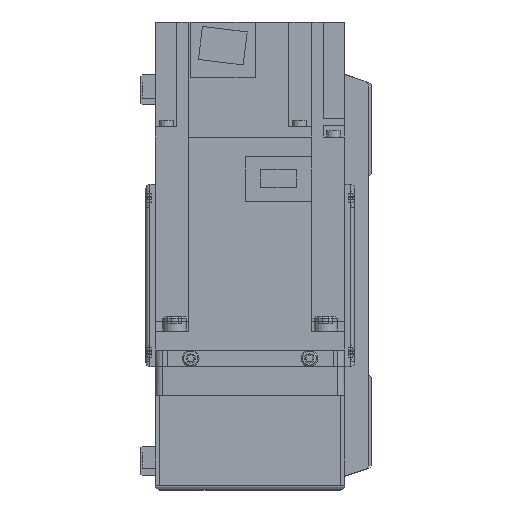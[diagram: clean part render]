
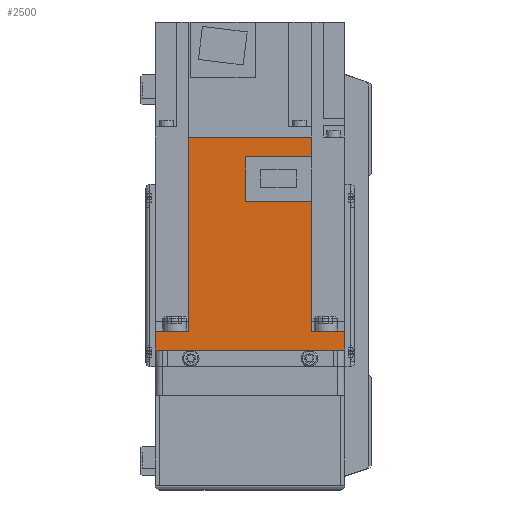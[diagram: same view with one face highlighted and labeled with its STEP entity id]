
A CAD part, left-side view. The second image highlights one B-rep face of the part: STEP entity #2500.
In plain terms, the highlighted planar face has unit normal (-1, 0, 0) as drawn and (1, 0, 0) by its records, which use the part's own axes.
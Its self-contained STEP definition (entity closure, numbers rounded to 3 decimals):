
#2500 = ADVANCED_FACE( '', ( #5680 ), #5681, .F. );
#5680 = FACE_OUTER_BOUND( '', #9608, .T. );
#5681 = PLANE( '', #9609 );
#9608 = EDGE_LOOP( '', ( #16790, #16791, #16792, #16793, #16794, #16795, #16796, #16797, #16798, #16799, #16800, #16801 ) );
#9609 = AXIS2_PLACEMENT_3D( '', #16802, #16803, #16804 );
#16790 = ORIENTED_EDGE( '', *, *, #24514, .F. );
#16791 = ORIENTED_EDGE( '', *, *, #23601, .F. );
#16792 = ORIENTED_EDGE( '', *, *, #24515, .F. );
#16793 = ORIENTED_EDGE( '', *, *, #24516, .T. );
#16794 = ORIENTED_EDGE( '', *, *, #24517, .F. );
#16795 = ORIENTED_EDGE( '', *, *, #24518, .T. );
#16796 = ORIENTED_EDGE( '', *, *, #24519, .T. );
#16797 = ORIENTED_EDGE( '', *, *, #23217, .F. );
#16798 = ORIENTED_EDGE( '', *, *, #22138, .F. );
#16799 = ORIENTED_EDGE( '', *, *, #23602, .F. );
#16800 = ORIENTED_EDGE( '', *, *, #24520, .F. );
#16801 = ORIENTED_EDGE( '', *, *, #24234, .F. );
#16802 = CARTESIAN_POINT( '', ( 40., 89.8, 40. ) );
#16803 = DIRECTION( '', ( -1., 0., 0. ) );
#16804 = DIRECTION( '', ( 0., 0., 1. ) );
#22138 = EDGE_CURVE( '', #26360, #26361, #26362, .T. );
#23217 = EDGE_CURVE( '', #26361, #28199, #28200, .T. );
#23601 = EDGE_CURVE( '', #28802, #26745, #28804, .T. );
#23602 = EDGE_CURVE( '', #26746, #26360, #28805, .T. );
#24234 = EDGE_CURVE( '', #29746, #29747, #29748, .T. );
#24514 = EDGE_CURVE( '', #26745, #29746, #30141, .T. );
#24515 = EDGE_CURVE( '', #30142, #28802, #30143, .T. );
#24516 = EDGE_CURVE( '', #30142, #30144, #30145, .T. );
#24517 = EDGE_CURVE( '', #30146, #30144, #30147, .T. );
#24518 = EDGE_CURVE( '', #30146, #30148, #30149, .T. );
#24519 = EDGE_CURVE( '', #30148, #28199, #30150, .T. );
#24520 = EDGE_CURVE( '', #29747, #26746, #30151, .T. );
#26360 = VERTEX_POINT( '', #32614 );
#26361 = VERTEX_POINT( '', #32615 );
#26362 = LINE( '', #32616, #32617 );
#26745 = VERTEX_POINT( '', #33253 );
#26746 = VERTEX_POINT( '', #33254 );
#28199 = VERTEX_POINT( '', #35395 );
#28200 = LINE( '', #35396, #35397 );
#28802 = VERTEX_POINT( '', #36641 );
#28804 = LINE( '', #36644, #36645 );
#28805 = LINE( '', #36646, #36647 );
#29746 = VERTEX_POINT( '', #38044 );
#29747 = VERTEX_POINT( '', #38045 );
#29748 = LINE( '', #38046, #38047 );
#30141 = LINE( '', #38876, #38877 );
#30142 = VERTEX_POINT( '', #38878 );
#30143 = LINE( '', #38879, #38880 );
#30144 = VERTEX_POINT( '', #38881 );
#30145 = LINE( '', #38882, #38883 );
#30146 = VERTEX_POINT( '', #38884 );
#30147 = LINE( '', #38885, #38886 );
#30148 = VERTEX_POINT( '', #38887 );
#30149 = LINE( '', #38888, #38889 );
#30150 = LINE( '', #38890, #38891 );
#30151 = LINE( '', #38892, #38893 );
#32614 = CARTESIAN_POINT( '', ( 40., 8., -25.95 ) );
#32615 = CARTESIAN_POINT( '', ( 40., 8., -40. ) );
#32616 = CARTESIAN_POINT( '', ( 40., 8., 40. ) );
#32617 = VECTOR( '', #41534, 1000. );
#33253 = CARTESIAN_POINT( '', ( 40., 81.4, -25.95 ) );
#33254 = CARTESIAN_POINT( '', ( 40., 62.8, -25.95 ) );
#35395 = CARTESIAN_POINT( '', ( 40., 0., -40. ) );
#35396 = CARTESIAN_POINT( '', ( 40., 89.8, -40. ) );
#35397 = VECTOR( '', #42913, 1000. );
#36641 = CARTESIAN_POINT( '', ( 40., 89.8, -25.95 ) );
#36644 = CARTESIAN_POINT( '', ( 40., 158., -25.95 ) );
#36645 = VECTOR( '', #43420, 1000. );
#36646 = CARTESIAN_POINT( '', ( 40., 158., -25.95 ) );
#36647 = VECTOR( '', #43421, 1000. );
#38044 = CARTESIAN_POINT( '', ( 40., 81.4, 1.8 ) );
#38045 = CARTESIAN_POINT( '', ( 40., 62.8, 1.8 ) );
#38046 = CARTESIAN_POINT( '', ( 40., 81.4, 1.8 ) );
#38047 = VECTOR( '', #44200, 1000. );
#38876 = CARTESIAN_POINT( '', ( 40., 81.4, -26. ) );
#38877 = VECTOR( '', #44533, 1000. );
#38878 = CARTESIAN_POINT( '', ( 40., 89.8, 25.95 ) );
#38879 = CARTESIAN_POINT( '', ( 40., 89.8, 40. ) );
#38880 = VECTOR( '', #44534, 1000. );
#38881 = CARTESIAN_POINT( '', ( 40., 8., 25.95 ) );
#38882 = CARTESIAN_POINT( '', ( 40., 158., 25.95 ) );
#38883 = VECTOR( '', #44535, 1000. );
#38884 = CARTESIAN_POINT( '', ( 40., 8., 40. ) );
#38885 = CARTESIAN_POINT( '', ( 40., 8., 40. ) );
#38886 = VECTOR( '', #44536, 1000. );
#38887 = CARTESIAN_POINT( '', ( 40., 0., 40. ) );
#38888 = CARTESIAN_POINT( '', ( 40., 89.8, 40. ) );
#38889 = VECTOR( '', #44537, 1000. );
#38890 = CARTESIAN_POINT( '', ( 40., 0., 40. ) );
#38891 = VECTOR( '', #44538, 1000. );
#38892 = CARTESIAN_POINT( '', ( 40., 62.8, 1.8 ) );
#38893 = VECTOR( '', #44539, 1000. );
#41534 = DIRECTION( '', ( 0., 0., -1. ) );
#42913 = DIRECTION( '', ( 0., -1., 0. ) );
#43420 = DIRECTION( '', ( 0., -1., 0. ) );
#43421 = DIRECTION( '', ( 0., -1., 0. ) );
#44200 = DIRECTION( '', ( 0., -1., 0. ) );
#44533 = DIRECTION( '', ( 0., 0., 1. ) );
#44534 = DIRECTION( '', ( 0., 0., -1. ) );
#44535 = DIRECTION( '', ( 0., -1., 0. ) );
#44536 = DIRECTION( '', ( 0., 0., -1. ) );
#44537 = DIRECTION( '', ( 0., -1., 0. ) );
#44538 = DIRECTION( '', ( 0., 0., -1. ) );
#44539 = DIRECTION( '', ( 0., 0., -1. ) );
